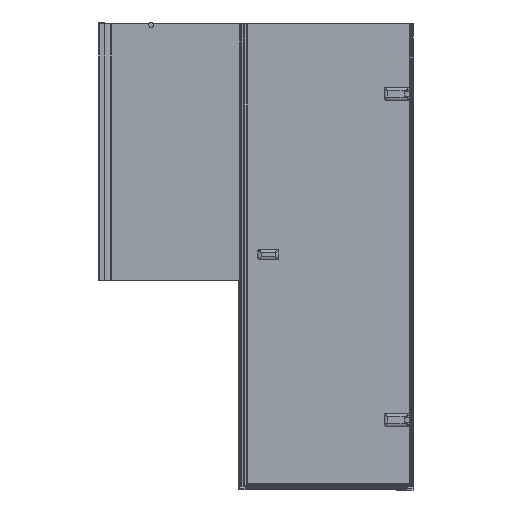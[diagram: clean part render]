
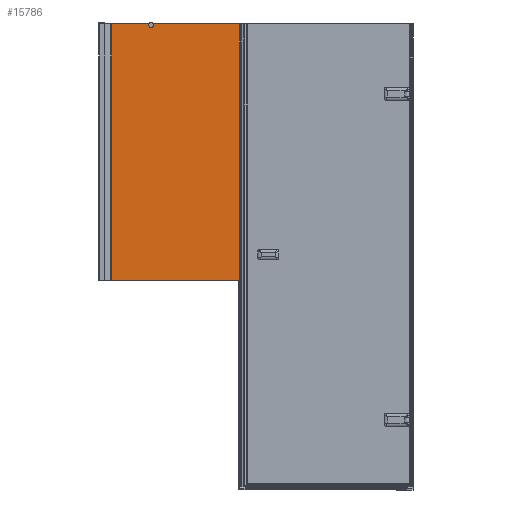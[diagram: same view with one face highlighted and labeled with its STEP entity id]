
A CAD part, front view. The second image highlights one B-rep face of the part: STEP entity #15786.
In plain terms, the highlighted planar face has unit normal (0, -1, 0).
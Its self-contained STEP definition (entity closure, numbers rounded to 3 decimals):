
#293=PLANE($,#16889);
#1448=LINE($,#24736,#3026);
#1449=LINE($,#24738,#3027);
#1450=LINE($,#24740,#3028);
#1451=LINE($,#24742,#3029);
#1452=LINE($,#24746,#3030);
#1453=LINE($,#24748,#3031);
#1454=LINE($,#24750,#3032);
#1455=LINE($,#24752,#3033);
#1456=LINE($,#24754,#3034);
#1457=LINE($,#24756,#3035);
#1458=LINE($,#24758,#3036);
#1459=LINE($,#24760,#3037);
#1460=LINE($,#24761,#3038);
#3026=VECTOR($,#19481,164.716);
#3027=VECTOR($,#19482,1100.);
#3028=VECTOR($,#19483,550.);
#3029=VECTOR($,#19484,900.);
#3030=VECTOR($,#19487,7.7);
#3031=VECTOR($,#19488,898.);
#3032=VECTOR($,#19489,0.3);
#3033=VECTOR($,#19490,1100.);
#3034=VECTOR($,#19491,1.);
#3035=VECTOR($,#19492,1995.);
#3036=VECTOR($,#19493,6.964);
#3037=VECTOR($,#19494,1995.);
#3038=VECTOR($,#19495,369.459);
#4482=FACE_OUTER_BOUND($,#5373,.T.);
#5373=EDGE_LOOP($,(#11909,#11910,#11911,#11912,#11913,#11914,#11915,#11916,
#11917,#11918,#11919,#11920,#11921,#11922,#11923));
#6229=CIRCLE($,#16874,10.);
#6234=CIRCLE($,#16890,2.);
#7139=VERTEX_POINT($,#24703);
#7140=VERTEX_POINT($,#24705);
#7145=VERTEX_POINT($,#24735);
#7146=VERTEX_POINT($,#24737);
#7147=VERTEX_POINT($,#24739);
#7148=VERTEX_POINT($,#24741);
#7149=VERTEX_POINT($,#24743);
#7150=VERTEX_POINT($,#24745);
#7151=VERTEX_POINT($,#24747);
#7152=VERTEX_POINT($,#24749);
#7153=VERTEX_POINT($,#24751);
#7154=VERTEX_POINT($,#24753);
#7155=VERTEX_POINT($,#24755);
#7156=VERTEX_POINT($,#24757);
#7157=VERTEX_POINT($,#24759);
#8828=EDGE_CURVE($,#7140,#7139,#6229,.T.);
#8842=EDGE_CURVE($,#7139,#7145,#1448,.T.);
#8843=EDGE_CURVE($,#7145,#7146,#1449,.T.);
#8844=EDGE_CURVE($,#7147,#7146,#1450,.T.);
#8845=EDGE_CURVE($,#7148,#7147,#1451,.T.);
#8846=EDGE_CURVE($,#7148,#7149,#6234,.T.);
#8847=EDGE_CURVE($,#7149,#7150,#1452,.T.);
#8848=EDGE_CURVE($,#7151,#7150,#1453,.T.);
#8849=EDGE_CURVE($,#7152,#7151,#1454,.T.);
#8850=EDGE_CURVE($,#7153,#7152,#1455,.T.);
#8851=EDGE_CURVE($,#7153,#7154,#1456,.T.);
#8852=EDGE_CURVE($,#7154,#7155,#1457,.T.);
#8853=EDGE_CURVE($,#7156,#7155,#1458,.T.);
#8854=EDGE_CURVE($,#7156,#7157,#1459,.T.);
#8855=EDGE_CURVE($,#7157,#7140,#1460,.T.);
#11909=ORIENTED_EDGE($,*,*,#8828,.T.);
#11910=ORIENTED_EDGE($,*,*,#8842,.T.);
#11911=ORIENTED_EDGE($,*,*,#8843,.T.);
#11912=ORIENTED_EDGE($,*,*,#8844,.F.);
#11913=ORIENTED_EDGE($,*,*,#8845,.F.);
#11914=ORIENTED_EDGE($,*,*,#8846,.T.);
#11915=ORIENTED_EDGE($,*,*,#8847,.T.);
#11916=ORIENTED_EDGE($,*,*,#8848,.F.);
#11917=ORIENTED_EDGE($,*,*,#8849,.F.);
#11918=ORIENTED_EDGE($,*,*,#8850,.F.);
#11919=ORIENTED_EDGE($,*,*,#8851,.T.);
#11920=ORIENTED_EDGE($,*,*,#8852,.T.);
#11921=ORIENTED_EDGE($,*,*,#8853,.F.);
#11922=ORIENTED_EDGE($,*,*,#8854,.T.);
#11923=ORIENTED_EDGE($,*,*,#8855,.T.);
#15786=ADVANCED_FACE($,(#4482),#293,.T.);
#16874=AXIS2_PLACEMENT_3D($,#24706,#19440,#19441);
#16889=AXIS2_PLACEMENT_3D($,#24734,#19479,#19480);
#16890=AXIS2_PLACEMENT_3D($,#24744,#19485,#19486);
#19440=DIRECTION('center_axis',(0.,1.,0.));
#19441=DIRECTION('ref_axis',(-1.,0.,0.));
#19479=DIRECTION('center_axis',(0.,-1.,0.));
#19480=DIRECTION('ref_axis',(-1.,0.,0.));
#19481=DIRECTION($,(-1.,0.,0.));
#19482=DIRECTION($,(0.,0.,-1.));
#19483=DIRECTION($,(-1.,0.,0.));
#19484=DIRECTION($,(0.,0.,1.));
#19485=DIRECTION('center_axis',(0.,1.,0.));
#19486=DIRECTION('ref_axis',(-0.707,0.,
0.707));
#19487=DIRECTION($,(1.,0.,0.));
#19488=DIRECTION($,(0.,0.,-1.));
#19489=DIRECTION($,(-1.,0.,0.));
#19490=DIRECTION($,(0.,0.,-1.));
#19491=DIRECTION($,(-1.,0.,0.));
#19492=DIRECTION($,(0.,0.,-1.));
#19493=DIRECTION($,(1.,0.,0.));
#19494=DIRECTION($,(0.,0.,1.));
#19495=DIRECTION($,(-1.,0.,0.));
#24703=CARTESIAN_POINT('',(680.735,-54.044,1485.944));
#24705=CARTESIAN_POINT('',(698.596,-54.044,1485.944));
#24706=CARTESIAN_POINT('Origin',(689.666,-54.044,1481.444));
#24734=CARTESIAN_POINT('Origin',(1076.019,-54.044,1485.944));
#24735=CARTESIAN_POINT('',(516.019,-54.044,1485.944));
#24736=CARTESIAN_POINT($,(1076.019,-54.044,1485.944));
#24737=CARTESIAN_POINT('',(516.019,-54.044,385.944));
#24738=CARTESIAN_POINT($,(516.019,-54.044,935.944));
#24739=CARTESIAN_POINT('',(1066.019,-54.044,385.944));
#24740=CARTESIAN_POINT($,(1076.019,-54.044,385.944));
#24741=CARTESIAN_POINT('',(1066.019,-54.044,-514.056));
#24742=CARTESIAN_POINT($,(1066.019,-54.044,-514.056));
#24743=CARTESIAN_POINT('',(1068.019,-54.044,-512.056));
#24744=CARTESIAN_POINT('Origin',(1068.019,-54.044,-514.056));
#24745=CARTESIAN_POINT('',(1075.719,-54.044,-512.056));
#24746=CARTESIAN_POINT($,(1072.019,-54.044,-512.056));
#24747=CARTESIAN_POINT('',(1075.719,-54.044,385.944));
#24748=CARTESIAN_POINT($,(1075.719,-54.044,-514.056));
#24749=CARTESIAN_POINT('',(1076.019,-54.044,385.944));
#24750=CARTESIAN_POINT($,(1076.019,-54.044,385.944));
#24751=CARTESIAN_POINT('',(1076.019,-54.044,1485.944));
#24752=CARTESIAN_POINT($,(1076.019,-54.044,1485.944));
#24753=CARTESIAN_POINT('',(1075.019,-54.044,1485.944));
#24754=CARTESIAN_POINT($,(1076.019,-54.044,1485.944));
#24755=CARTESIAN_POINT('',(1075.019,-54.044,-509.056));
#24756=CARTESIAN_POINT($,(1075.019,-54.044,488.444));
#24757=CARTESIAN_POINT('',(1068.055,-54.044,-509.056));
#24758=CARTESIAN_POINT($,(1076.164,-54.044,-509.056));
#24759=CARTESIAN_POINT('',(1068.055,-54.044,1485.944));
#24760=CARTESIAN_POINT($,(1068.055,-54.044,488.444));
#24761=CARTESIAN_POINT($,(1076.019,-54.044,1485.944));
